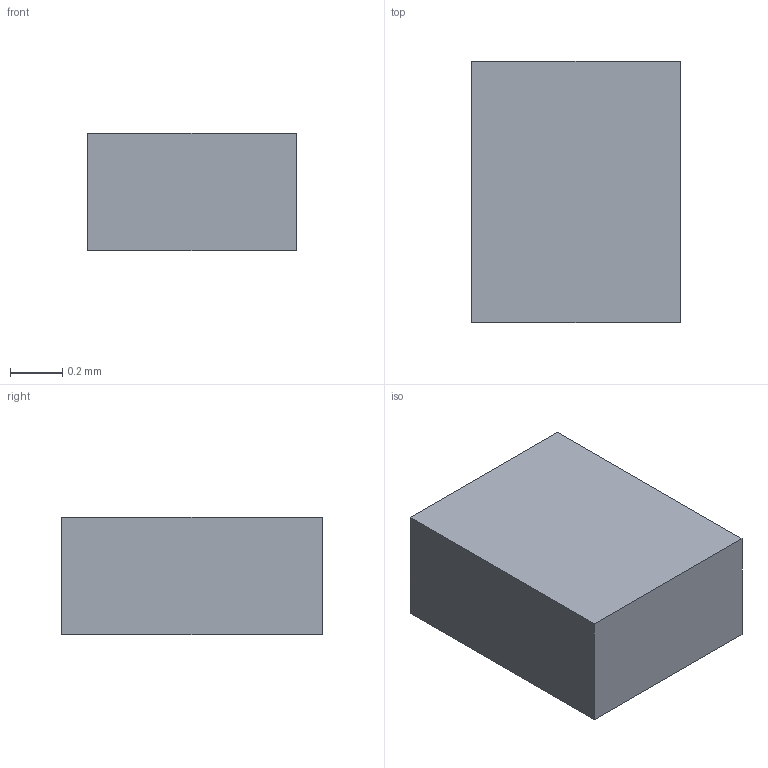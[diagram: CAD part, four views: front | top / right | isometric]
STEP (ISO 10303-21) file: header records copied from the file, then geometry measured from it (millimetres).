
FILE_DESCRIPTION(/* description */ ('STEP AP242 Edition 2','CAx-IF Rec.Pracs.---Representation and Presentation of Product Manufacturing Information (PMI)---4.0---2014-10-13','CAx-IF Rec.Pracs.---3D Tessellated Geometry---0.4---2014-09-14','2;1','CAx-IF Rec.Pracs.---User Defined Attributes---1.5---2016-08-15'),/* implementation_level */ '2;1');
FILE_NAME(/* name */ 'HIRO_Assembly - SMD Resistor, Configurable, Raspberry Pi Pico-R3_R7 (2)',/* time_stamp */ '2026-11-04T05:23:29Z',/* author */ (''),/* organization */ (''),/* preprocessor_version */ 'ST-DEVELOPER v20',/* originating_system */ 'ONSHAPE BY PTC INC, 1.223',/* authorisation */ ' ');
FILE_SCHEMA (('AP242_MANAGED_MODEL_BASED_3D_ENGINEERING_MIM_LF { 1 0 10303 442 3 1 4 }'));
Length unit declared in the file: metre
Products named in the file (1): SMD Resistor, Configurable, Raspberry Pi Pico-R3_R7
Bounding box: 0.8 x 1 x 0.45 mm (x, y, z)
Volume: 0.4 mm3; surface area: 3.2 mm2
Topology: 1 solids, 1 shells, 6 faces, 12 edges, 8 vertices
Faces by surface type: plane 6
Entity records: 221 total; most frequent: CARTESIAN_POINT 27, DIRECTION 26, ORIENTED_EDGE 24, EDGE_CURVE 12, LINE 12, VECTOR 12, VERTEX_POINT 8, PRESENTATION_STYLE_ASSIGNMENT 7
